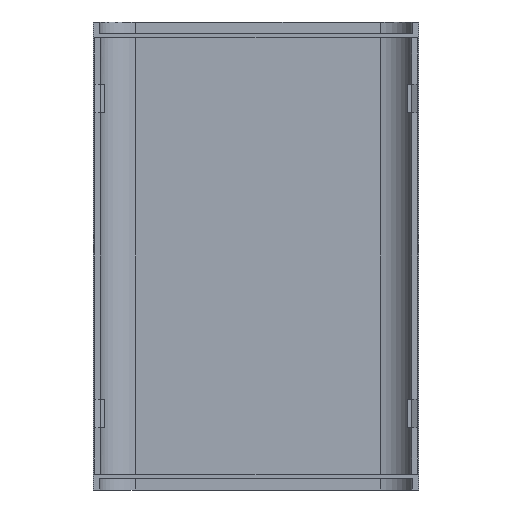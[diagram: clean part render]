
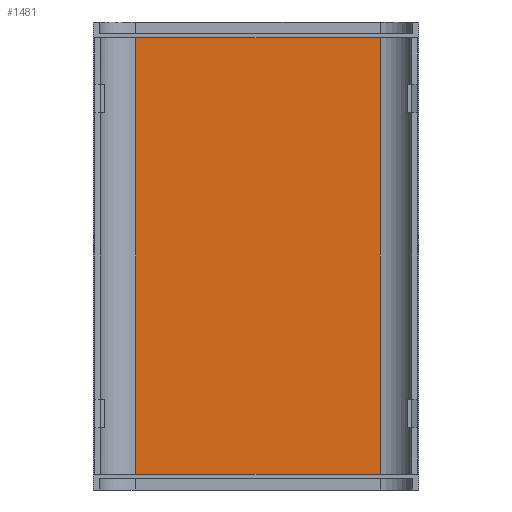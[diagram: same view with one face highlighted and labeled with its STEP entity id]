
A CAD part, front view. The second image highlights one B-rep face of the part: STEP entity #1481.
In plain terms, the highlighted planar face has unit normal (0, -1, 0).
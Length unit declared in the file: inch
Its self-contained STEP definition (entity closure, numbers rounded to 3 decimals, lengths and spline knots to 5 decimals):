
#1256=CARTESIAN_POINT('',(-1.81918,0.32679,-3.295));
#1257=VERTEX_POINT('',#1256);
#1265=CARTESIAN_POINT('',(-1.81918,0.32679,3.295));
#1266=VERTEX_POINT('',#1265);
#1267=CARTESIAN_POINT('',(-1.81918,0.32679,3.295));
#1268=DIRECTION('',(0.0,0.0,-1.0));
#1269=VECTOR('',#1268,6.59);
#1270=LINE('',#1267,#1269);
#1271=EDGE_CURVE('',#1266,#1257,#1270,.T.);
#1309=CARTESIAN_POINT('',(1.8775,0.32679,3.295));
#1310=VERTEX_POINT('',#1309);
#1311=CARTESIAN_POINT('',(1.8775,0.32679,3.295));
#1312=DIRECTION('',(-1.0,0.0,0.0));
#1313=VECTOR('',#1312,3.69668);
#1314=LINE('',#1311,#1313);
#1315=EDGE_CURVE('',#1310,#1266,#1314,.T.);
#1342=CARTESIAN_POINT('',(1.8775,0.32679,-3.295));
#1343=VERTEX_POINT('',#1342);
#1351=CARTESIAN_POINT('',(-1.81918,0.32679,-3.295));
#1352=DIRECTION('',(1.0,0.0,0.0));
#1353=VECTOR('',#1352,3.69668);
#1354=LINE('',#1351,#1353);
#1355=EDGE_CURVE('',#1257,#1343,#1354,.T.);
#1416=CARTESIAN_POINT('',(1.8775,0.32679,3.295));
#1417=DIRECTION('',(0.0,0.0,-1.0));
#1418=VECTOR('',#1417,6.59);
#1419=LINE('',#1416,#1418);
#1420=EDGE_CURVE('',#1310,#1343,#1419,.T.);
#1470=CARTESIAN_POINT('',(1.8775,0.32679,0.0));
#1471=DIRECTION('',(0.0,-1.0,0.0));
#1472=DIRECTION('',(0.0,0.0,-1.0));
#1473=AXIS2_PLACEMENT_3D('',#1470,#1471,#1472);
#1474=PLANE('',#1473);
#1475=ORIENTED_EDGE('',*,*,#1355,.T.);
#1476=ORIENTED_EDGE('',*,*,#1420,.F.);
#1477=ORIENTED_EDGE('',*,*,#1315,.T.);
#1478=ORIENTED_EDGE('',*,*,#1271,.T.);
#1479=EDGE_LOOP('',(#1475,#1476,#1477,#1478));
#1480=FACE_OUTER_BOUND('',#1479,.T.);
#1481=ADVANCED_FACE('',(#1480),#1474,.T.);
